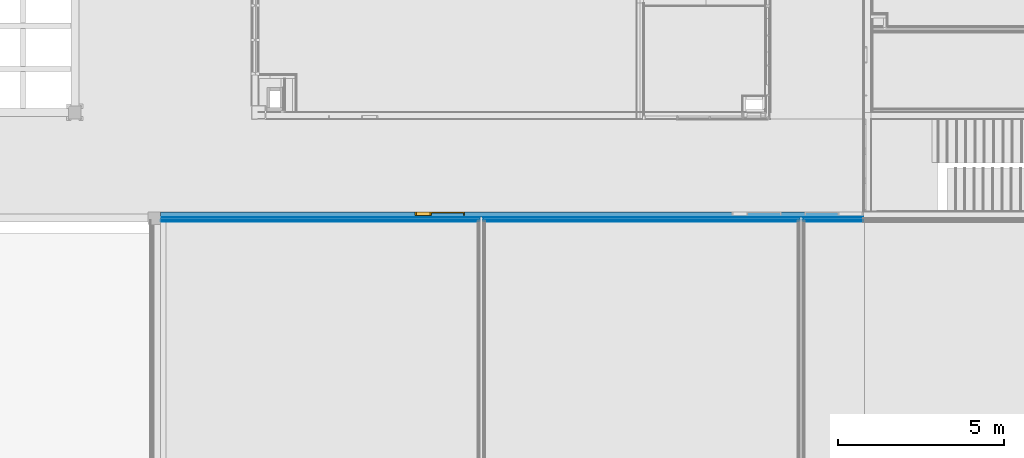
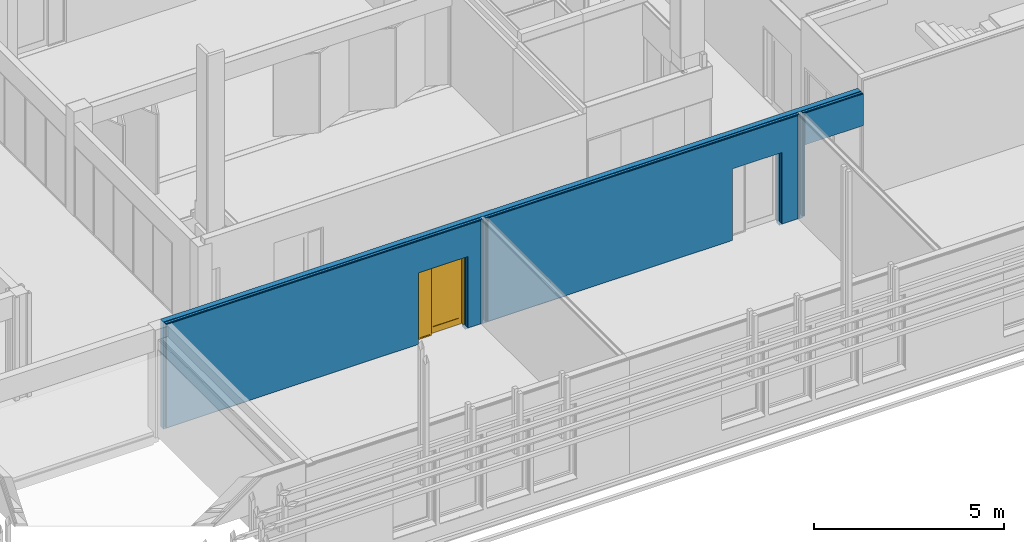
# One storey, part 62 of 139: 7 building element parts, 1 door, 3 openings, 1 element without a shape of its own.
"""IFC2X3 building model written with IfcOpenShell, lengths in millimetres."""

from ifc_helpers import new_model, entity, si_unit, converted_unit, derived_unit, money_unit, direction, frame, origin_with_axes, place, context, subcontext, project, spatial, open_shell, faceted_brep, surface_model, source, transform, mapped, material, type_object, element, fill, aggregate, save


model = new_model("IFC2X3")

# Units and contexts
model_context = context("Model", 3, precision=0.01, world=origin_with_axes(), true_north=direction((0.0, 1.0)))
body_context = subcontext(model_context, "Body", "Model", "MODEL_VIEW")
ifc_project = project(units=[si_unit("LENGTHUNIT", "METRE", prefix="MILLI"), si_unit("AREAUNIT", "SQUARE_METRE"), si_unit("VOLUMEUNIT", "CUBIC_METRE"), converted_unit("PLANEANGLEUNIT", "DEGREE", entity("IfcPlaneAngleMeasure", 0.0174532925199), si_unit("PLANEANGLEUNIT", "RADIAN"), dimensions=[0, 0, 0, 0, 0, 0, 0]), money_unit("EUR"), converted_unit("TIMEUNIT", "Year", entity("IfcTimeMeasure", 31556926.0), si_unit("TIMEUNIT", "SECOND"), dimensions=[0, 0, 1, 0, 0, 0, 0]), si_unit("MASSUNIT", "GRAM", prefix="KILO"), si_unit("THERMODYNAMICTEMPERATUREUNIT", "DEGREE_CELSIUS"), si_unit("LUMINOUSINTENSITYUNIT", "LUMEN"), si_unit("ENERGYUNIT", "JOULE", prefix="MEGA"), derived_unit("THERMALCONDUCTANCEUNIT", [(si_unit("POWERUNIT", "WATT"), 1), (si_unit("LENGTHUNIT", "METRE"), -1), (si_unit("THERMODYNAMICTEMPERATUREUNIT", "KELVIN"), -1)]), derived_unit("SPECIFICHEATCAPACITYUNIT", [(si_unit("ENERGYUNIT", "JOULE"), 1), (si_unit("MASSUNIT", "GRAM", prefix="KILO"), -1), (si_unit("THERMODYNAMICTEMPERATUREUNIT", "KELVIN"), -1)]), derived_unit("MASSDENSITYUNIT", [(si_unit("MASSUNIT", "GRAM", prefix="KILO"), 1), (si_unit("VOLUMEUNIT", "CUBIC_METRE"), -1)])], contexts=[model_context])

# Site, building, storey
site_placement = place(None, origin_with_axes())
site = spatial("IfcSite", under=ifc_project, at=site_placement, Name="Kolde pst 67a", CompositionType="ELEMENT")
building_placement = place(site_placement, origin_with_axes())
building = spatial("IfcBuilding", under=site, at=building_placement, Name="Riigigümnaasium", CompositionType="ELEMENT")
storey_placement = place(building_placement, frame((0.0, 0.0, 4600.0), z_axis=(0.0, 0.0, 1.0), x_axis=(1.0, 0.0, 0.0)))
storey = spatial("IfcBuildingStorey", under=building, at=storey_placement, Name="2. korrus", CompositionType="ELEMENT", Elevation=4600.0)

# Door
door_style = type_object("IfcDoorStyle", Name="Door with Sidelight on Side 2 25", ConstructionType="NOTDEFINED", OperationType="SINGLE_SWING_RIGHT", ParameterTakesPrecedence=False, Sizeable=False)
shared_shape = source(origin_with_axes(), body_context, "Body", "SurfaceModel", [
    faceted_brep([(-750.0, 0.0, 0.0), (-710.0, 0.0, 0.0), (-710.0, -115.0, 0.0), (-750.0, -115.0, 0.0), (-750.0, 0.0, 2260.0), (-710.0, 0.0, 2260.0), (-710.0, 0.0, 40.0), (-710.0, -115.0, 40.0), (-710.0, -115.0, 2260.0), (-750.0, -115.0, 2260.0)], [[[0, 1, 2, 3]], [[0, 4, 5, 6, 1]], [[1, 6, 7, 2]], [[3, 2, 7, 8, 9]], [[4, 0, 3, 9]], [[5, 4, 9, 8]], [[6, 5, 8, 7]]]),
    faceted_brep([(-250.0, -40.0, 0.0), (-250.0, -40.0, 2260.0), (-250.0, -115.0, 2260.0), (-250.0, -115.0, 0.0), (-262.0, -40.0, 2260.0), (-262.0, -40.0, 0.0), (-262.0, 0.0, 2260.0), (-290.0, 0.0, 2260.0), (-290.0, -115.0, 2260.0), (-290.0, -115.0, 0.0), (-290.0, -115.0, 40.0), (-290.0, 0.0, 0.0), (-262.0, 0.0, 0.0), (-290.0, 0.0, 40.0)], [[[0, 1, 2, 3]], [[4, 1, 0, 5]], [[4, 6, 7, 8, 2, 1]], [[9, 3, 2, 8, 10]], [[5, 0, 3, 9, 11, 12]], [[6, 4, 5, 12]], [[6, 12, 11, 13, 7]], [[13, 10, 8, 7]], [[11, 9, 10, 13]]]),
    faceted_brep([(-710.0, 0.0, 40.0), (-710.0, 0.0, 0.0), (-710.0, -115.0, 0.0), (-710.0, -115.0, 40.0), (-290.0, 0.0, 40.0), (-290.0, 0.0, 0.0), (-290.0, -115.0, 0.0), (-290.0, -115.0, 40.0)], [[[0, 1, 2, 3]], [[0, 4, 5, 1]], [[1, 5, 6, 2]], [[3, 2, 6, 7]], [[4, 0, 3, 7]], [[5, 4, 7, 6]]]),
    faceted_brep([(722.0, -40.0, 2260.0), (710.0, -40.0, 2260.0), (710.0, -115.0, 2260.0), (750.0, -115.0, 2260.0), (750.0, 0.0, 2260.0), (722.0, 0.0, 2260.0), (722.0, -40.0, 0.0), (710.0, -40.0, 0.0), (710.0, -115.0, 0.0), (750.0, -115.0, 0.0), (750.0, 0.0, 0.0), (722.0, 0.0, 0.0)], [[[0, 1, 2, 3, 4, 5]], [[1, 0, 6, 7]], [[1, 7, 8, 2]], [[3, 2, 8, 9]], [[4, 3, 9, 10]], [[11, 5, 4, 10]], [[0, 5, 11, 6]], [[6, 11, 10, 9, 8, 7]]]),
    faceted_brep([(-262.0, 0.0, 2272.0), (-262.0, 0.0, 2260.0), (-290.0, 0.0, 2260.0), (-710.0, 0.0, 2260.0), (-750.0, 0.0, 2260.0), (-750.0, 0.0, 2300.0), (750.0, 0.0, 2300.0), (750.0, 0.0, 2260.0), (722.0, 0.0, 2260.0), (722.0, 0.0, 2272.0), (-262.0, -40.0, 2272.0), (-262.0, -40.0, 2260.0), (710.0, -40.0, 2260.0), (710.0, -115.0, 2260.0), (-250.0, -115.0, 2260.0), (-290.0, -115.0, 2260.0), (-710.0, -115.0, 2260.0), (-750.0, -115.0, 2260.0), (-750.0, -115.0, 2300.0), (750.0, -115.0, 2300.0), (750.0, -115.0, 2260.0), (722.0, -40.0, 2260.0), (722.0, -40.0, 2272.0)], [[[0, 1, 2, 3, 4, 5, 6, 7, 8, 9]], [[1, 0, 10, 11]], [[11, 12, 13, 14, 15, 2, 1]], [[2, 15, 16, 3]], [[3, 16, 17, 4]], [[4, 17, 18, 5]], [[5, 18, 19, 6]], [[6, 19, 20, 7]], [[21, 8, 7, 20, 13, 12]], [[9, 8, 21, 22]], [[0, 9, 22, 10]], [[21, 12, 11, 10, 22]], [[13, 20, 19, 18, 17, 16, 15, 14]]]),
    faceted_brep([(722.0, 0.0, 200.0), (722.0, -40.0, 200.0), (622.0, -40.0, 200.0), (622.0, 0.0, 200.0), (722.0, 0.0, 2172.0), (722.0, -40.0, 2172.0), (622.0, -40.0, 2172.0), (622.0, 0.0, 2172.0)], [[[0, 1, 2, 3]], [[4, 5, 1, 0]], [[1, 5, 6, 2]], [[3, 2, 6, 7]], [[0, 3, 7, 4]], [[7, 6, 5, 4]]]),
    faceted_brep([(-262.0, 0.0, 200.0), (-262.0, -40.0, 200.0), (-262.0, -40.0, 2172.0), (-262.0, 0.0, 2172.0), (-162.0, 0.0, 200.0), (-162.0, -40.0, 200.0), (-162.0, -40.0, 2172.0), (-162.0, 0.0, 2172.0)], [[[0, 1, 2, 3]], [[4, 5, 1, 0]], [[1, 5, 6, 2]], [[3, 2, 6, 7]], [[0, 3, 7, 4]], [[7, 6, 5, 4]]]),
    faceted_brep([(722.0, 0.0, 0.0), (722.0, -40.0, 0.0), (-262.0, -40.0, 0.0), (-262.0, 0.0, 0.0), (722.0, 0.0, 200.0), (722.0, -40.0, 200.0), (622.0, -40.0, 200.0), (-162.0, -40.0, 200.0), (-262.0, -40.0, 200.0), (-262.0, 0.0, 200.0), (-162.0, 0.0, 200.0), (622.0, 0.0, 200.0)], [[[0, 1, 2, 3]], [[4, 5, 1, 0]], [[1, 5, 6, 7, 8, 2]], [[3, 2, 8, 9]], [[0, 3, 9, 10, 11, 4]], [[11, 6, 5, 4]], [[10, 7, 6, 11]], [[9, 8, 7, 10]]]),
    faceted_brep([(722.0, 0.0, 2272.0), (722.0, -40.0, 2272.0), (722.0, -40.0, 2172.0), (722.0, 0.0, 2172.0), (-262.0, 0.0, 2272.0), (-262.0, -40.0, 2272.0), (-262.0, -40.0, 2172.0), (-162.0, -40.0, 2172.0), (622.0, -40.0, 2172.0), (622.0, 0.0, 2172.0), (-162.0, 0.0, 2172.0), (-262.0, 0.0, 2172.0)], [[[0, 1, 2, 3]], [[4, 5, 1, 0]], [[1, 5, 6, 7, 8, 2]], [[3, 2, 8, 9]], [[0, 3, 9, 10, 11, 4]], [[11, 6, 5, 4]], [[10, 7, 6, 11]], [[9, 8, 7, 10]]]),
    surface_model("IfcShellBasedSurfaceModel", [(622.0, -14.0, 200.0), (-162.0, -14.0, 200.0), (-162.0, -14.0, 2172.0), (622.0, -14.0, 2172.0)], [open_shell([[[0, 1, 2, 3]]])]),
    surface_model("IfcShellBasedSurfaceModel", [(622.0, -26.0, 200.0), (622.0, -26.0, 2172.0), (-162.0, -26.0, 2172.0), (-162.0, -26.0, 200.0)], [open_shell([[[0, 1, 2, 3]]])]),
    surface_model("IfcShellBasedSurfaceModel", [(-710.0, -91.0, 40.0), (-710.0, -91.0, 2260.0), (-290.0, -91.0, 2260.0), (-290.0, -91.0, 40.0)], [open_shell([[[0, 1, 2, 3]]])]),
    surface_model("IfcShellBasedSurfaceModel", [(-710.0, -103.0, 40.0), (-290.0, -103.0, 40.0), (-290.0, -103.0, 2260.0), (-710.0, -103.0, 2260.0)], [open_shell([[[0, 1, 2, 3]]])]),
])
wall_placement = place(storey_placement, frame((55369.9826662, 7900.0, -130.0), z_axis=(0.0, 0.0, 1.0), x_axis=(1.0, 0.0, 0.0)))
opening_1_placement = place(wall_placement, frame((8430.01666176, 0.0, 130.0), z_axis=(0.0, 0.0, 1.0), x_axis=(1.0, 0.0, 0.0)))
door_placement = place(opening_1_placement, frame((-750.0, 0.0, 0.0), z_axis=(0.0, 0.0, 1.0), x_axis=(1.0, 0.0, 0.0)))
door = element("IfcDoor", 1, at=door_placement, inside=storey, type_object=door_style, Name="Siseuks", ObjectType="DOOR", OverallHeight=2300.0, OverallWidth=1500.0, context=body_context, shape_type="MappedRepresentation", body=[
    mapped(shared_shape, transform((750.0, 0.0, 0.0))),
])

# Wall, opening
wall_type = type_object("IfcWallType", Name="SS-CLT-16/1_vill75+krohv 52 dB 300", PredefinedType="NOTDEFINED")
wall = element("IfcWall", 2, at=wall_placement, inside=storey, type_object=wall_type, Name="Sisesein")
opening_1 = element("IfcOpeningElement", 3, at=opening_1_placement, cuts=wall, Name="Siseuks", context=body_context, shape_type="Brep", body=[
    faceted_brep([(750.0, -300.0, 2300.0), (750.0, -300.0, 0.0), (750.0, 600.0, 0.0), (750.0, 600.0, 2300.0), (-750.0, -300.0, 2300.0), (-750.0, -300.0, 0.0), (-750.0, 600.0, 0.0), (-750.0, 600.0, 2300.0)], [[[0, 1, 2, 3]], [[0, 4, 5, 1]], [[1, 5, 6, 2]], [[3, 2, 6, 7]], [[4, 0, 3, 7]], [[5, 4, 7, 6]]]),
])

fill(opening_1, door)

# Opening
opening_2_placement = place(wall_placement, frame((20330.020805, 0.0, 130.0), z_axis=(0.0, 0.0, 1.0), x_axis=(1.0, 0.0, 0.0)))
element("IfcOpeningElement", 4, at=opening_2_placement, cuts=wall, Name="Siseuks", context=body_context, shape_type="Brep", body=[
    faceted_brep([(-890.0, 600.0, 2300.0), (-890.0, 600.0, 0.0), (-890.0, -300.0, 0.0), (-890.0, -300.0, 2300.0), (890.0, 600.0, 2300.0), (890.0, 600.0, 0.0), (890.0, -300.0, 0.0), (890.0, -300.0, 2300.0)], [[[0, 1, 2, 3]], [[0, 4, 5, 1]], [[1, 5, 6, 2]], [[3, 2, 6, 7]], [[4, 0, 3, 7]], [[5, 4, 7, 6]]]),
])

opening_3_placement = place(wall_placement, frame((17990.0166618, 0.0, 130.0), z_axis=(0.0, 0.0, 1.0), x_axis=(1.0, 0.0, 0.0)))
element("IfcOpeningElement", 5, at=opening_3_placement, cuts=wall, Name="Siseuks", context=body_context, shape_type="Brep", body=[
    faceted_brep([(750.0, -300.0, 2300.0), (750.0, -300.0, 0.0), (750.0, 600.0, 0.0), (750.0, 600.0, 2300.0), (-750.0, -300.0, 2300.0), (-750.0, -300.0, 0.0), (-750.0, 600.0, 0.0), (-750.0, 600.0, 2300.0)], [[[0, 1, 2, 3]], [[0, 4, 5, 1]], [[1, 5, 6, 2]], [[3, 2, 6, 7]], [[4, 0, 3, 7]], [[5, 4, 7, 6]]]),
])

# Building element part
ifc_material_1 = material(Name="_KANDETARIND - CLT ristkihtliimpuit vastavalt EK osale, CLT paigaldusvuugid teibitakse ROTHOBLAAS teibiga")
building_element_part_1_placement = place(wall_placement, origin_with_axes())
building_element_part_1 = element("IfcBuildingElementPart", 6, at=building_element_part_1_placement, material=ifc_material_1, Name="_KANDETARIND - CLT ristkihtliimpuit vastavalt EK osale, CLT paigaldusvuugid teibitakse ROTHOBLAAS teibiga", context=body_context, shape_type="Brep", body=[
    faceted_brep([(17240.0166618, 0.0, 2430.0), (17240.0166618, 0.0, 130.0), (17240.0166618, 0.0, 0.0), (9180.01666176, 0.0, 0.0), (9180.01666176, 0.0, 130.0), (9180.01666176, 0.0, 2430.0), (7680.01666176, 0.0, 2430.0), (7680.01666176, 0.0, 130.0), (7680.01666176, 0.0, 0.0), (0.0, 0.0, 0.0), (0.0, 0.0, 3450.0), (21220.0193969, 0.0, 3450.0), (21220.020805, 0.0, 2430.0), (19440.020805, 0.0, 2430.0), (19440.020805, 0.0, 130.0), (19440.020805, 0.0, 0.0), (18740.0166618, 0.0, 0.0), (18740.0166618, 0.0, 130.0), (18740.0166618, 0.0, 2430.0), (17240.0166618, -160.0, 2430.0), (17240.0166618, -160.0, 130.0), (17240.0166618, -160.0, 0.0), (9180.01666176, -160.0, 0.0), (9180.01666176, -160.0, 130.0), (9180.01666176, -160.0, 2430.0), (7680.01666176, -160.0, 2430.0), (7680.01666176, -160.0, 130.0), (7680.01666176, -160.0, 0.0), (0.0, -160.0, 0.0), (-0.00089815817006, -160.0, 3450.0), (21220.0193969, -160.0, 3450.0), (21220.020805, -160.0, 2430.0), (19440.020805, -160.0, 2430.0), (19440.020805, -160.0, 130.0), (19440.020805, -160.0, 0.0), (18740.0166618, -160.0, 0.0), (18740.0166618, -160.0, 130.0), (18740.0166618, -160.0, 2430.0)], [[[0, 1, 2, 3, 4, 5, 6, 7, 8, 9, 10, 11, 12, 13, 14, 15, 16, 17, 18]], [[1, 0, 19, 20]], [[1, 20, 21, 2]], [[22, 3, 2, 21]], [[3, 22, 23, 4]], [[23, 24, 5, 4]], [[24, 25, 6, 5]], [[25, 26, 7, 6]], [[27, 8, 7, 26]], [[27, 28, 9, 8]], [[9, 28, 29, 10]], [[10, 29, 30, 11]], [[12, 11, 30, 31]], [[12, 31, 32, 13]], [[13, 32, 33, 14]], [[33, 34, 15, 14]], [[16, 15, 34, 35]], [[36, 17, 16, 35]], [[18, 17, 36, 37]], [[0, 18, 37, 19]], [[37, 36, 35, 34, 33, 32, 31, 30, 29, 28, 27, 26, 25, 24, 23, 22, 21, 20, 19]]]),
])

ifc_material_2 = material(Name="_ÕHKVAHE")
building_element_part_2_placement = place(wall_placement, origin_with_axes())
building_element_part_2 = element("IfcBuildingElementPart", 7, at=building_element_part_2_placement, material=ifc_material_2, Name="_ÕHKVAHE", context=body_context, shape_type="Brep", body=[
    faceted_brep([(21220.020805, -175.0, 2430.0), (21220.020805, -160.0, 2430.0), (21220.0193969, -160.0, 3450.0), (21220.0193969, -175.0, 3450.0), (19440.020805, -160.0, 2430.0), (19440.020805, -175.0, 2430.0), (19440.020805, -160.0, 130.0), (19440.020805, -160.0, 127.0), (19390.0166618, -160.0, 127.0), (19390.0166618, -160.0, 3450.0), (19390.0166618, -175.0, 3450.0), (19390.0166618, -175.0, 127.0), (19440.020805, -175.0, 127.0), (19440.020805, -175.0, 130.0)], [[[0, 1, 2, 3]], [[4, 1, 0, 5]], [[4, 6, 7, 8, 9, 2, 1]], [[2, 9, 10, 3]], [[5, 0, 3, 10, 11, 12, 13]], [[6, 4, 5, 13]], [[6, 13, 12, 7]], [[12, 11, 8, 7]], [[9, 8, 11, 10]]]),
    faceted_brep([(17240.0166618, -160.0, 2430.0), (17240.0166618, -160.0, 130.0), (17240.0166618, -160.0, 127.0), (9740.01666176, -160.0, 127.0), (9740.01666176, -160.0, 3450.0), (19290.0166618, -160.0, 3450.0), (19290.0166618, -160.0, 127.0), (18740.0166618, -160.0, 127.0), (18740.0166618, -160.0, 130.0), (18740.0166618, -160.0, 2430.0), (17240.0166618, -175.0, 2430.0), (17240.0166618, -175.0, 130.0), (17240.0166618, -175.0, 127.0), (9740.01666176, -175.0, 127.0), (9740.01666176, -175.0, 3450.0), (19290.0166618, -175.0, 3450.0), (19290.0166618, -175.0, 127.0), (18740.0166618, -175.0, 127.0), (18740.0166618, -175.0, 130.0), (18740.0166618, -175.0, 2430.0)], [[[0, 1, 2, 3, 4, 5, 6, 7, 8, 9]], [[1, 0, 10, 11]], [[1, 11, 12, 2]], [[12, 13, 3, 2]], [[4, 3, 13, 14]], [[5, 4, 14, 15]], [[15, 16, 6, 5]], [[7, 6, 16, 17]], [[18, 8, 7, 17]], [[9, 8, 18, 19]], [[0, 9, 19, 10]], [[19, 18, 17, 16, 15, 14, 13, 12, 11, 10]]]),
    faceted_brep([(7680.01666176, -160.0, 2430.0), (7680.01666176, -160.0, 130.0), (7680.01666176, -160.0, 127.0), (0.0, -160.0, 127.0), (-0.00089815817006, -160.0, 3450.0), (9640.01666176, -160.0, 3450.0), (9640.01666176, -160.0, 127.0), (9180.01666176, -160.0, 127.0), (9180.01666176, -160.0, 130.0), (9180.01666176, -160.0, 2430.0), (7680.01666176, -175.0, 2430.0), (7680.01666176, -175.0, 130.0), (7680.01666176, -175.0, 127.0), (0.0, -175.0, 127.0), (-0.00089815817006, -175.0, 3450.0), (9640.01666176, -175.0, 3450.0), (9640.01666176, -175.0, 127.0), (9180.01666176, -175.0, 127.0), (9180.01666176, -175.0, 130.0), (9180.01666176, -175.0, 2430.0)], [[[0, 1, 2, 3, 4, 5, 6, 7, 8, 9]], [[1, 0, 10, 11]], [[1, 11, 12, 2]], [[12, 13, 3, 2]], [[4, 3, 13, 14]], [[5, 4, 14, 15]], [[15, 16, 6, 5]], [[7, 6, 16, 17]], [[18, 8, 7, 17]], [[9, 8, 18, 19]], [[0, 9, 19, 10]], [[19, 18, 17, 16, 15, 14, 13, 12, 11, 10]]]),
])

ifc_material_3 = material(Name="_KARKASS - metallkarkass CW 75/50/06 ja UW 75/40/06, samm 600, vahel mineraalvill, helineeldetegur αw = 1.0,  ISOVER ACOUSTIC 75mm või samaväärne")
building_element_part_3_placement = place(wall_placement, origin_with_axes())
building_element_part_3 = element("IfcBuildingElementPart", 8, at=building_element_part_3_placement, material=ifc_material_3, Name="_KARKASS - metallkarkass CW 75/50/06 ja UW 75/40/06, samm 600, vahel mineraalvill, helineeldetegur αw = 1.0,  ISOVER ACOUSTIC 75mm või samaväärne", context=body_context, shape_type="Brep", body=[
    faceted_brep([(21220.020805, -250.0, 2430.0), (21220.020805, -175.0, 2430.0), (21220.0193969, -175.0, 3450.0), (21220.0193969, -250.0, 3450.0), (19440.020805, -175.0, 2430.0), (19440.020805, -250.0, 2430.0), (19440.020805, -175.0, 130.0), (19440.020805, -175.0, 127.0), (19390.0166618, -175.0, 127.0), (19390.0166618, -175.0, 3450.0), (19390.0166618, -250.0, 3450.0), (19390.0166618, -250.0, 127.0), (19440.020805, -250.0, 127.0), (19440.020805, -250.0, 130.0)], [[[0, 1, 2, 3]], [[4, 1, 0, 5]], [[4, 6, 7, 8, 9, 2, 1]], [[2, 9, 10, 3]], [[5, 0, 3, 10, 11, 12, 13]], [[6, 4, 5, 13]], [[6, 13, 12, 7]], [[12, 11, 8, 7]], [[9, 8, 11, 10]]]),
    faceted_brep([(17240.0166618, -175.0, 2430.0), (17240.0166618, -175.0, 130.0), (17240.0166618, -175.0, 127.0), (9740.01666176, -175.0, 127.0), (9740.01666176, -175.0, 3450.0), (19290.0166618, -175.0, 3450.0), (19290.0166618, -175.0, 127.0), (18740.0166618, -175.0, 127.0), (18740.0166618, -175.0, 130.0), (18740.0166618, -175.0, 2430.0), (17240.0166618, -250.0, 2430.0), (17240.0166618, -250.0, 130.0), (17240.0166618, -250.0, 127.0), (9740.01666176, -250.0, 127.0), (9740.01666176, -250.0, 3450.0), (19290.0166618, -250.0, 3450.0), (19290.0166618, -250.0, 127.0), (18740.0166618, -250.0, 127.0), (18740.0166618, -250.0, 130.0), (18740.0166618, -250.0, 2430.0)], [[[0, 1, 2, 3, 4, 5, 6, 7, 8, 9]], [[1, 0, 10, 11]], [[1, 11, 12, 2]], [[12, 13, 3, 2]], [[4, 3, 13, 14]], [[5, 4, 14, 15]], [[15, 16, 6, 5]], [[7, 6, 16, 17]], [[18, 8, 7, 17]], [[9, 8, 18, 19]], [[0, 9, 19, 10]], [[19, 18, 17, 16, 15, 14, 13, 12, 11, 10]]]),
    faceted_brep([(7680.01666176, -175.0, 2430.0), (7680.01666176, -175.0, 130.0), (7680.01666176, -175.0, 127.0), (0.0, -175.0, 127.0), (-0.00089815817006, -175.0, 3450.0), (9640.01666176, -175.0, 3450.0), (9640.01666176, -175.0, 127.0), (9180.01666176, -175.0, 127.0), (9180.01666176, -175.0, 130.0), (9180.01666176, -175.0, 2430.0), (7680.01666176, -250.0, 2430.0), (7680.01666176, -250.0, 130.0), (7680.01666176, -250.0, 127.0), (0.0, -250.0, 127.0), (-0.00089815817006, -250.0, 3450.0), (9640.01666176, -250.0, 3450.0), (9640.01666176, -250.0, 127.0), (9180.01666176, -250.0, 127.0), (9180.01666176, -250.0, 130.0), (9180.01666176, -250.0, 2430.0)], [[[0, 1, 2, 3, 4, 5, 6, 7, 8, 9]], [[1, 0, 10, 11]], [[1, 11, 12, 2]], [[12, 13, 3, 2]], [[4, 3, 13, 14]], [[5, 4, 14, 15]], [[15, 16, 6, 5]], [[7, 6, 16, 17]], [[18, 8, 7, 17]], [[9, 8, 18, 19]], [[0, 9, 19, 10]], [[19, 18, 17, 16, 15, 14, 13, 12, 11, 10]]]),
])

ifc_material_4 = material(Name="_PLAATMATERJAL - OSB3 plaat")
building_element_part_4_placement = place(wall_placement, origin_with_axes())
building_element_part_4 = element("IfcBuildingElementPart", 9, at=building_element_part_4_placement, material=ifc_material_4, Name="_PLAATMATERJAL - OSB3 plaat", context=body_context, shape_type="Brep", body=[
    faceted_brep([(21220.020805, -260.0, 2430.0), (21220.020805, -250.0, 2430.0), (21220.0193969, -250.0, 3450.0), (21220.0193969, -260.0, 3450.0), (19440.020805, -250.0, 2430.0), (19440.020805, -260.0, 2430.0), (19440.020805, -250.0, 130.0), (19440.020805, -250.0, 127.0), (19390.0166618, -250.0, 127.0), (19390.0166618, -250.0, 3450.0), (19390.0166618, -260.0, 3450.0), (19390.0166618, -260.0, 127.0), (19440.020805, -260.0, 127.0), (19440.020805, -260.0, 130.0)], [[[0, 1, 2, 3]], [[4, 1, 0, 5]], [[4, 6, 7, 8, 9, 2, 1]], [[2, 9, 10, 3]], [[5, 0, 3, 10, 11, 12, 13]], [[6, 4, 5, 13]], [[6, 13, 12, 7]], [[12, 11, 8, 7]], [[9, 8, 11, 10]]]),
    faceted_brep([(17240.0166618, -250.0, 2430.0), (17240.0166618, -250.0, 130.0), (17240.0166618, -250.0, 127.0), (9740.01666176, -250.0, 127.0), (9740.01666176, -250.0, 3450.0), (19290.0166618, -250.0, 3450.0), (19290.0166618, -250.0, 127.0), (18740.0166618, -250.0, 127.0), (18740.0166618, -250.0, 130.0), (18740.0166618, -250.0, 2430.0), (17240.0166618, -260.0, 2430.0), (17240.0166618, -260.0, 130.0), (17240.0166618, -260.0, 127.0), (9740.01666176, -260.0, 127.0), (9740.01666176, -260.0, 3450.0), (19290.0166618, -260.0, 3450.0), (19290.0166618, -260.0, 127.0), (18740.0166618, -260.0, 127.0), (18740.0166618, -260.0, 130.0), (18740.0166618, -260.0, 2430.0)], [[[0, 1, 2, 3, 4, 5, 6, 7, 8, 9]], [[1, 0, 10, 11]], [[1, 11, 12, 2]], [[12, 13, 3, 2]], [[4, 3, 13, 14]], [[5, 4, 14, 15]], [[15, 16, 6, 5]], [[7, 6, 16, 17]], [[18, 8, 7, 17]], [[9, 8, 18, 19]], [[0, 9, 19, 10]], [[19, 18, 17, 16, 15, 14, 13, 12, 11, 10]]]),
    faceted_brep([(7680.01666176, -250.0, 2430.0), (7680.01666176, -250.0, 130.0), (7680.01666176, -250.0, 127.0), (0.0, -250.0, 127.0), (-0.00089815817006, -250.0, 3450.0), (9640.01666176, -250.0, 3450.0), (9640.01666176, -250.0, 127.0), (9180.01666176, -250.0, 127.0), (9180.01666176, -250.0, 130.0), (9180.01666176, -250.0, 2430.0), (7680.01666176, -260.0, 2430.0), (7680.01666176, -260.0, 130.0), (7680.01666176, -260.0, 127.0), (0.0, -260.0, 127.0), (-0.00089815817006, -260.0, 3450.0), (9640.01666176, -260.0, 3450.0), (9640.01666176, -260.0, 127.0), (9180.01666176, -260.0, 127.0), (9180.01666176, -260.0, 130.0), (9180.01666176, -260.0, 2430.0)], [[[0, 1, 2, 3, 4, 5, 6, 7, 8, 9]], [[1, 0, 10, 11]], [[1, 11, 12, 2]], [[12, 13, 3, 2]], [[4, 3, 13, 14]], [[5, 4, 14, 15]], [[15, 16, 6, 5]], [[7, 6, 16, 17]], [[18, 8, 7, 17]], [[9, 8, 18, 19]], [[0, 9, 19, 10]], [[19, 18, 17, 16, 15, 14, 13, 12, 11, 10]]]),
])

ifc_material_5 = material(Name="_PLAATMATERJAL - tuletõkkekipsplaat, Knauf Red GKF või samaväärne")
building_element_part_5_placement = place(wall_placement, origin_with_axes())
building_element_part_5 = element("IfcBuildingElementPart", 10, at=building_element_part_5_placement, material=ifc_material_5, Name="_PLAATMATERJAL - tuletõkkekipsplaat, Knauf Red GKF või samaväärne", context=body_context, shape_type="Brep", body=[
    faceted_brep([(21220.020805, -275.0, 2430.0), (21220.020805, -260.0, 2430.0), (21220.0193969, -260.0, 3450.0), (21220.0193969, -275.0, 3450.0), (19440.020805, -260.0, 2430.0), (19440.020805, -275.0, 2430.0), (19440.020805, -260.0, 130.0), (19440.020805, -260.0, 127.0), (19390.0166618, -260.0, 127.0), (19390.0166618, -260.0, 3450.0), (19390.0166618, -275.0, 3450.0), (19390.0166618, -275.0, 127.0), (19440.020805, -275.0, 127.0), (19440.020805, -275.0, 130.0)], [[[0, 1, 2, 3]], [[4, 1, 0, 5]], [[4, 6, 7, 8, 9, 2, 1]], [[2, 9, 10, 3]], [[5, 0, 3, 10, 11, 12, 13]], [[6, 4, 5, 13]], [[6, 13, 12, 7]], [[12, 11, 8, 7]], [[9, 8, 11, 10]]]),
    faceted_brep([(17240.0166618, -260.0, 2430.0), (17240.0166618, -260.0, 130.0), (17240.0166618, -260.0, 127.0), (9740.01666176, -260.0, 127.0), (9740.01666176, -260.0, 3450.0), (19290.0166618, -260.0, 3450.0), (19290.0166618, -260.0, 127.0), (18740.0166618, -260.0, 127.0), (18740.0166618, -260.0, 130.0), (18740.0166618, -260.0, 2430.0), (17240.0166618, -275.0, 2430.0), (17240.0166618, -275.0, 130.0), (17240.0166618, -275.0, 127.0), (9740.01666176, -275.0, 127.0), (9740.01666176, -275.0, 3450.0), (19290.0166618, -275.0, 3450.0), (19290.0166618, -275.0, 127.0), (18740.0166618, -275.0, 127.0), (18740.0166618, -275.0, 130.0), (18740.0166618, -275.0, 2430.0)], [[[0, 1, 2, 3, 4, 5, 6, 7, 8, 9]], [[1, 0, 10, 11]], [[1, 11, 12, 2]], [[12, 13, 3, 2]], [[4, 3, 13, 14]], [[5, 4, 14, 15]], [[15, 16, 6, 5]], [[7, 6, 16, 17]], [[18, 8, 7, 17]], [[9, 8, 18, 19]], [[0, 9, 19, 10]], [[19, 18, 17, 16, 15, 14, 13, 12, 11, 10]]]),
    faceted_brep([(7680.01666176, -260.0, 2430.0), (7680.01666176, -260.0, 130.0), (7680.01666176, -260.0, 127.0), (0.0, -260.0, 127.0), (-0.00089815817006, -260.0, 3450.0), (9640.01666176, -260.0, 3450.0), (9640.01666176, -260.0, 127.0), (9180.01666176, -260.0, 127.0), (9180.01666176, -260.0, 130.0), (9180.01666176, -260.0, 2430.0), (7680.01666176, -275.0, 2430.0), (7680.01666176, -275.0, 130.0), (7680.01666176, -275.0, 127.0), (0.0, -275.0, 127.0), (-0.00089815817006, -275.0, 3450.0), (9640.01666176, -275.0, 3450.0), (9640.01666176, -275.0, 127.0), (9180.01666176, -275.0, 127.0), (9180.01666176, -275.0, 130.0), (9180.01666176, -275.0, 2430.0)], [[[0, 1, 2, 3, 4, 5, 6, 7, 8, 9]], [[1, 0, 10, 11]], [[1, 11, 12, 2]], [[12, 13, 3, 2]], [[4, 3, 13, 14]], [[5, 4, 14, 15]], [[15, 16, 6, 5]], [[7, 6, 16, 17]], [[18, 8, 7, 17]], [[9, 8, 18, 19]], [[0, 9, 19, 10]], [[19, 18, 17, 16, 15, 14, 13, 12, 11, 10]]]),
])

building_element_part_6_placement = place(wall_placement, origin_with_axes())
building_element_part_6 = element("IfcBuildingElementPart", 11, at=building_element_part_6_placement, material=ifc_material_5, Name="_PLAATMATERJAL - tuletõkkekipsplaat, Knauf Red GKF või samaväärne", context=body_context, shape_type="Brep", body=[
    faceted_brep([(21220.020805, -290.0, 2430.0), (21220.020805, -275.0, 2430.0), (21220.0193969, -275.0, 3450.0), (21220.0193969, -290.0, 3450.0), (19440.020805, -275.0, 2430.0), (19440.020805, -290.0, 2430.0), (19440.020805, -275.0, 130.0), (19440.020805, -275.0, 127.0), (19430.0166618, -275.0, 127.0), (19430.0166618, -275.0, 3450.0), (19430.0166618, -290.0, 3450.0), (19430.0166618, -290.0, 127.0), (19440.020805, -290.0, 127.0), (19440.020805, -290.0, 130.0)], [[[0, 1, 2, 3]], [[4, 1, 0, 5]], [[4, 6, 7, 8, 9, 2, 1]], [[2, 9, 10, 3]], [[5, 0, 3, 10, 11, 12, 13]], [[6, 4, 5, 13]], [[6, 13, 12, 7]], [[12, 11, 8, 7]], [[9, 8, 11, 10]]]),
    faceted_brep([(17240.0166618, -275.0, 2430.0), (17240.0166618, -275.0, 130.0), (17240.0166618, -275.0, 127.0), (9780.01666176, -275.0, 127.0), (9780.01666176, -275.0, 3450.0), (19250.0166618, -275.0, 3450.0), (19250.0166618, -275.0, 127.0), (18740.0166618, -275.0, 127.0), (18740.0166618, -275.0, 130.0), (18740.0166618, -275.0, 2430.0), (17240.0166618, -290.0, 2430.0), (17240.0166618, -290.0, 130.0), (17240.0166618, -290.0, 127.0), (9780.01666176, -290.0, 127.0), (9780.01666176, -290.0, 3450.0), (19250.0166618, -290.0, 3450.0), (19250.0166618, -290.0, 127.0), (18740.0166618, -290.0, 127.0), (18740.0166618, -290.0, 130.0), (18740.0166618, -290.0, 2430.0)], [[[0, 1, 2, 3, 4, 5, 6, 7, 8, 9]], [[1, 0, 10, 11]], [[1, 11, 12, 2]], [[12, 13, 3, 2]], [[4, 3, 13, 14]], [[5, 4, 14, 15]], [[15, 16, 6, 5]], [[7, 6, 16, 17]], [[18, 8, 7, 17]], [[9, 8, 18, 19]], [[0, 9, 19, 10]], [[19, 18, 17, 16, 15, 14, 13, 12, 11, 10]]]),
    faceted_brep([(7680.01666176, -275.0, 2430.0), (7680.01666176, -275.0, 130.0), (7680.01666176, -275.0, 127.0), (0.0, -275.0, 127.0), (-0.00089815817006, -275.0, 3450.0), (9600.01666176, -275.0, 3450.0), (9600.01666176, -275.0, 127.0), (9180.01666176, -275.0, 127.0), (9180.01666176, -275.0, 130.0), (9180.01666176, -275.0, 2430.0), (7680.01666176, -290.0, 2430.0), (7680.01666176, -290.0, 130.0), (7680.01666176, -290.000000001, 127.0), (-0.00133188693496, -290.000000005, 127.0), (-0.00089815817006, -290.0, 3450.0), (9600.01666176, -290.0, 3450.0), (9600.01666176, -290.0, 127.0), (9180.01666176, -290.0, 127.0), (9180.01666176, -290.0, 130.0), (9180.01666176, -290.0, 2430.0)], [[[0, 1, 2, 3, 4, 5, 6, 7, 8, 9]], [[1, 0, 10, 11]], [[1, 11, 12, 2]], [[13, 3, 2, 12]], [[4, 3, 13, 14]], [[5, 4, 14, 15]], [[15, 16, 6, 5]], [[7, 6, 16, 17]], [[18, 8, 7, 17]], [[9, 8, 18, 19]], [[0, 9, 19, 10]], [[19, 18, 17, 16, 15, 14, 13, 12, 11, 10]]]),
])

ifc_material_6 = material(Name="_VIIMISTLUSKIHT - viimistlus vastavalt SA osale")
building_element_part_7_placement = place(wall_placement, origin_with_axes())
building_element_part_7 = element("IfcBuildingElementPart", 12, at=building_element_part_7_placement, material=ifc_material_6, Name="_VIIMISTLUSKIHT - viimistlus vastavalt SA osale", context=body_context, shape_type="Brep", body=[
    faceted_brep([(21220.020805, -300.0, 2430.0), (21220.020805, -290.0, 2430.0), (21220.0193969, -290.0, 3450.0), (21220.0193969, -300.0, 3450.0), (19445.0166618, -290.0, 2430.0), (19445.0166618, -300.0, 2430.0), (19445.0166618, -290.0, 3450.0), (19445.0166618, -300.0, 3450.0)], [[[0, 1, 2, 3]], [[4, 1, 0, 5]], [[1, 4, 6, 2]], [[2, 6, 7, 3]], [[5, 0, 3, 7]], [[4, 5, 7, 6]]]),
    faceted_brep([(17240.0166618, -290.0, 2430.0), (17240.0166618, -290.0, 130.0), (9795.01666176, -290.0, 130.0), (9795.01666176, -290.0, 3450.0), (19235.0166618, -290.0, 3450.0), (19235.0166618, -290.0, 130.0), (18740.0166618, -290.0, 130.0), (18740.0166618, -290.0, 2430.0), (17240.0166618, -300.0, 2430.0), (17240.0166618, -300.0, 130.0), (9795.01666176, -300.0, 130.0), (9795.01666176, -300.0, 3450.0), (19235.0166618, -300.0, 3450.0), (19235.0166618, -300.0, 130.0), (18740.0166618, -300.0, 130.0), (18740.0166618, -300.0, 2430.0)], [[[0, 1, 2, 3, 4, 5, 6, 7]], [[1, 0, 8, 9]], [[1, 9, 10, 2]], [[3, 2, 10, 11]], [[4, 3, 11, 12]], [[12, 13, 5, 4]], [[14, 6, 5, 13]], [[7, 6, 14, 15]], [[0, 7, 15, 8]], [[15, 14, 13, 12, 11, 10, 9, 8]]]),
    faceted_brep([(7680.01666176, -290.0, 2430.0), (7680.01666176, -290.000000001, 130.0), (-0.00133188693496, -290.000000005, 130.0), (-0.00089815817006, -290.0, 3450.0), (9585.01666176, -290.0, 3450.0), (9585.01666176, -290.0, 130.0), (9180.01666176, -290.0, 130.0), (9180.01666176, -290.0, 2430.0), (7680.01666176, -300.0, 2430.0), (7680.01666176, -300.000000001, 130.0), (-0.00129245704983, -300.000000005, 130.0), (-0.00089815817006, -300.0, 3450.0), (9585.01666176, -300.0, 3450.0), (9585.01666176, -300.0, 130.0), (9180.01666176, -300.0, 130.0), (9180.01666176, -300.0, 2430.0)], [[[0, 1, 2, 3, 4, 5, 6, 7]], [[1, 0, 8, 9]], [[1, 9, 10, 2]], [[3, 2, 10, 11]], [[4, 3, 11, 12]], [[12, 13, 5, 4]], [[14, 6, 5, 13]], [[7, 6, 14, 15]], [[0, 7, 15, 8]], [[15, 14, 13, 12, 11, 10, 9, 8]]]),
])

aggregate(wall, [building_element_part_1, building_element_part_2, building_element_part_3, building_element_part_4, building_element_part_5, building_element_part_6, building_element_part_7])

save(model, "model.ifc")
